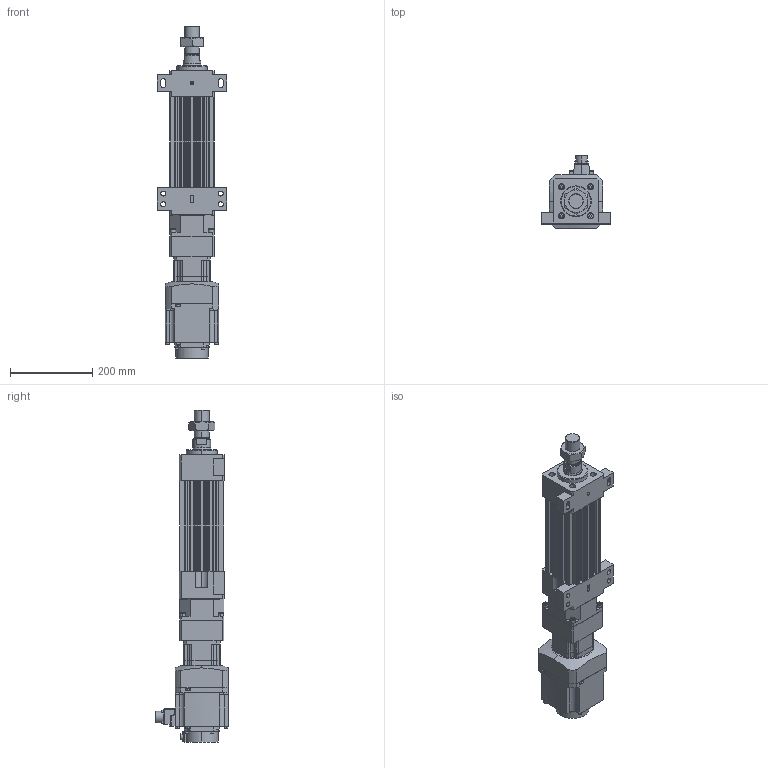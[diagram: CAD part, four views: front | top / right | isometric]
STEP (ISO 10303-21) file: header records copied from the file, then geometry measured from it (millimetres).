
FILE_DESCRIPTION (( 'STEP AP203' ), '1' );
FILE_NAME ('HES110NS(HS)-S050-W010G00-M-FFB.STEP', '2023-01-27T05:22:32', ( 'tms' ), ( '' ), 'SwSTEP 2.0', 'SolidWorks 2013', '' );
FILE_SCHEMA (( 'CONFIG_CONTROL_DESIGN' ));
Length unit declared in the file: millimetre
Products named in the file (8): HES110NS(HS)-S050-W010G00-M-FFB; HES110 ROD M ST050; HG-SR102; HES110-S050-G090-FFB; AB090-003[HG-SR102B]; M36X1.5P; AB0901; P0401301004
Assembly tree (7 placements, depth 3):
  HES110NS(HS)-S050-W010G00-M-FFB
    HES110-S050-G090-FFB
    HES110 ROD M ST050
    M36X1.5P
    AB090-003[HG-SR102B]
      AB0901
      P0401301004
    HG-SR102
Bounding box: 170 x 177.49 x 808.5 mm (x, y, z)
Volume: 5394585.3 mm3; surface area: 673599 mm2
Topology: 4 solids, 15 shells, 1189 faces, 3015 edges, 1964 vertices
Faces by surface type: plane 570, cylinder 529, cone 78, bspline 8, torus 4
Entity records: 37852 total; most frequent: CARTESIAN_POINT 7358, DIRECTION 6498, ORIENTED_EDGE 5982, EDGE_CURVE 3001, AXIS2_PLACEMENT_3D 2375, VERTEX_POINT 1964, VECTOR 1748, LINE 1748
